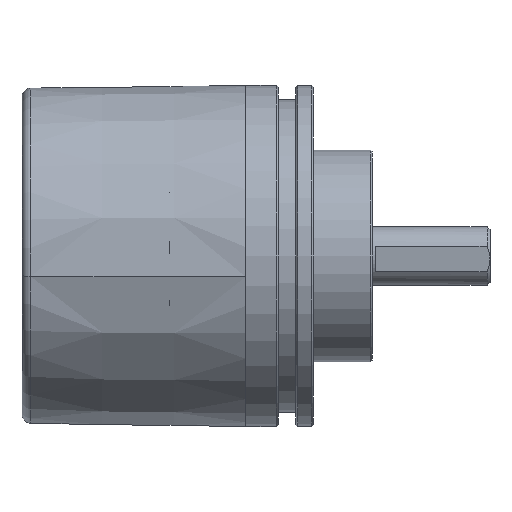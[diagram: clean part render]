
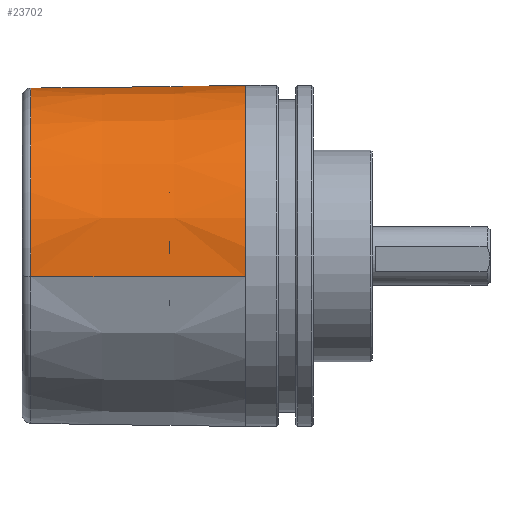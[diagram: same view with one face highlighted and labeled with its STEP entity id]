
A CAD part, front view. The second image highlights one B-rep face of the part: STEP entity #23702.
In plain terms, the highlighted conical face has half-angle 0.75 degrees and reference radius 29 mm.
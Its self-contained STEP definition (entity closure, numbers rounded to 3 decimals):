
#975 = DIRECTION ( 'NONE',  ( 0., 0.993, 0.122 ) ) ;
#1042 = CARTESIAN_POINT ( 'NONE',  ( -5.48, 22.134, 18.473 ) ) ;
#1164 = CARTESIAN_POINT ( 'NONE',  ( -2.834, 23.395, 16.909 ) ) ;
#1972 = CARTESIAN_POINT ( 'NONE',  ( -20.478, 21.872, 18.48 ) ) ;
#2489 = LINE ( 'NONE', #28698, #7434 ) ;
#3209 = VERTEX_POINT ( 'NONE', #22588 ) ;
#3236 = FACE_OUTER_BOUND ( 'NONE', #4989, .T. ) ;
#4099 = AXIS2_PLACEMENT_3D ( 'NONE', #7850, #28055, #10748 ) ;
#4105 = CARTESIAN_POINT ( 'NONE',  ( -2.549, 23.877, 16.231 ) ) ;
#4320 = CARTESIAN_POINT ( 'NONE',  ( -29.02, -28.309, -3.476 ) ) ;
#4989 = EDGE_LOOP ( 'NONE', ( #12631, #33299, #12632, #5902, #27137, #20556, #32549 ) ) ;
#5049 = CIRCLE ( 'NONE', #10962, 28.522 ) ;
#5902 = ORIENTED_EDGE ( 'NONE', *, *, #32487, .T. ) ;
#6885 = CARTESIAN_POINT ( 'NONE',  ( -5.038, 22.162, 18.448 ) ) ;
#6996 = CARTESIAN_POINT ( 'NONE',  ( -2.48, 24.354, 15.503 ) ) ;
#7267 = CONICAL_SURFACE ( 'NONE', #29235, 29., 0.013 ) ;
#7434 = VECTOR ( 'NONE', #8499, 1000. ) ;
#7647 = CARTESIAN_POINT ( 'NONE',  ( -5.48, 22.134, 18.473 ) ) ;
#7850 = CARTESIAN_POINT ( 'NONE',  ( 7.5, 0., 0. ) ) ;
#8499 = DIRECTION ( 'NONE',  ( 1., -0.013, -0.002 ) ) ;
#9212 = CARTESIAN_POINT ( 'NONE',  ( -23.325, 21.822, 18.482 ) ) ;
#9373 = EDGE_CURVE ( 'NONE', #33095, #3209, #10575, .T. ) ;
#9770 = CARTESIAN_POINT ( 'NONE',  ( -4.417, 22.307, 18.287 ) ) ;
#10575 = LINE ( 'NONE', #19185, #18250 ) ;
#10748 = DIRECTION ( 'NONE',  ( 0., 0.993, 0.122 ) ) ;
#10962 = AXIS2_PLACEMENT_3D ( 'NONE', #35494, #18252, #975 ) ;
#11907 = VERTEX_POINT ( 'NONE', #24388 ) ;
#12069 = CARTESIAN_POINT ( 'NONE',  ( -29.02, 21.722, 18.484 ) ) ;
#12631 = ORIENTED_EDGE ( 'NONE', *, *, #9373, .F. ) ;
#12632 = ORIENTED_EDGE ( 'NONE', *, *, #24748, .F. ) ;
#12639 = CARTESIAN_POINT ( 'NONE',  ( -3.864, 22.54, 18.01 ) ) ;
#13811 = DIRECTION ( 'NONE',  ( 1., 0., 0. ) ) ;
#14061 = CARTESIAN_POINT ( 'NONE',  ( -29.02, 21.722, 18.484 ) ) ;
#14208 = CIRCLE ( 'NONE', #33122, 28.869 ) ;
#14364 = CARTESIAN_POINT ( 'NONE',  ( 7.5, 0., 0. ) ) ;
#15505 = CARTESIAN_POINT ( 'NONE',  ( -3.399, 22.834, 17.646 ) ) ;
#16317 = CARTESIAN_POINT ( 'NONE',  ( -8.48, 22.082, 18.475 ) ) ;
#17412 = DIRECTION ( 'NONE',  ( 0., -0.993, -0.122 ) ) ;
#18250 = VECTOR ( 'NONE', #36433, 1000. ) ;
#18252 = DIRECTION ( 'NONE',  ( 1., 0., 0. ) ) ;
#18338 = CARTESIAN_POINT ( 'NONE',  ( -5.258, 22.138, 18.473 ) ) ;
#18457 = CARTESIAN_POINT ( 'NONE',  ( -3.029, 23.163, 17.22 ) ) ;
#18926 = EDGE_CURVE ( 'NONE', #32501, #3209, #37245, .T. ) ;
#19025 = CARTESIAN_POINT ( 'NONE',  ( -5.48, 22.134, 18.473 ) ) ;
#19185 = CARTESIAN_POINT ( 'NONE',  ( 7.5, 28.784, 3.534 ) ) ;
#19263 = CARTESIAN_POINT ( 'NONE',  ( -16.479, 21.942, 18.478 ) ) ;
#20556 = ORIENTED_EDGE ( 'NONE', *, *, #29440, .T. ) ;
#20850 = B_SPLINE_CURVE_WITH_KNOTS ( 'NONE', 3,
 ( #7647, #27727, #33621, #16317, #36496, #19263, #1972, #9212, #29391, #12069 ),
 .UNSPECIFIED., .F., .F.,
 ( 4, 3, 3, 4 ),
 ( 0., 0.003, 0.015, 0.024 ),
 .UNSPECIFIED. ) ;
#21384 = CARTESIAN_POINT ( 'NONE',  ( -2.75, 23.515, 16.743 ) ) ;
#22588 = CARTESIAN_POINT ( 'NONE',  ( 7.5, 28.784, 3.534 ) ) ;
#23702 = ADVANCED_FACE ( 'NONE', ( #3236 ), #7267, .T. ) ;
#24268 = CARTESIAN_POINT ( 'NONE',  ( -2.48, 24.117, 15.875 ) ) ;
#24388 = CARTESIAN_POINT ( 'NONE',  ( -2.48, 24.354, 15.503 ) ) ;
#24501 = VERTEX_POINT ( 'NONE', #14061 ) ;
#24748 = EDGE_CURVE ( 'NONE', #32689, #11907, #25458, .T. ) ;
#24961 = CARTESIAN_POINT ( 'NONE',  ( 7.5, -28.784, -3.534 ) ) ;
#25458 = B_SPLINE_CURVE_WITH_KNOTS ( 'NONE', 3,
 ( #1042, #18338, #6885, #27044, #9770, #29938, #12639, #32840, #15505, #35701, #18457, #1164, #21384, #4105, #24268, #6996 ),
 .UNSPECIFIED., .F., .F.,
 ( 4, 2, 2, 2, 2, 2, 2, 4 ),
 ( 0., 0.001, 0.001, 0.002, 0.003, 0.003, 0.004, 0.005 ),
 .UNSPECIFIED. ) ;
#27044 = CARTESIAN_POINT ( 'NONE',  ( -4.617, 22.247, 18.355 ) ) ;
#27137 = ORIENTED_EDGE ( 'NONE', *, *, #30682, .T. ) ;
#27564 = CARTESIAN_POINT ( 'NONE',  ( -2.48, 28.654, 3.518 ) ) ;
#27727 = CARTESIAN_POINT ( 'NONE',  ( -6.48, 22.116, 18.474 ) ) ;
#28055 = DIRECTION ( 'NONE',  ( -1., 0., 0. ) ) ;
#28698 = CARTESIAN_POINT ( 'NONE',  ( 7.5, -28.784, -3.534 ) ) ;
#29235 = AXIS2_PLACEMENT_3D ( 'NONE', #14364, #37438, #17412 ) ;
#29391 = CARTESIAN_POINT ( 'NONE',  ( -26.172, 21.772, 18.483 ) ) ;
#29440 = EDGE_CURVE ( 'NONE', #31805, #32501, #2489, .T. ) ;
#29938 = CARTESIAN_POINT ( 'NONE',  ( -4.037, 22.454, 18.113 ) ) ;
#30682 = EDGE_CURVE ( 'NONE', #24501, #31805, #5049, .T. ) ;
#31106 = CARTESIAN_POINT ( 'NONE',  ( -2.48, 0., 0. ) ) ;
#31805 = VERTEX_POINT ( 'NONE', #4320 ) ;
#32487 = EDGE_CURVE ( 'NONE', #32689, #24501, #20850, .T. ) ;
#32501 = VERTEX_POINT ( 'NONE', #24961 ) ;
#32549 = ORIENTED_EDGE ( 'NONE', *, *, #18926, .T. ) ;
#32689 = VERTEX_POINT ( 'NONE', #19025 ) ;
#32770 = EDGE_CURVE ( 'NONE', #33095, #11907, #14208, .T. ) ;
#32840 = CARTESIAN_POINT ( 'NONE',  ( -3.545, 22.729, 17.777 ) ) ;
#33095 = VERTEX_POINT ( 'NONE', #27564 ) ;
#33122 = AXIS2_PLACEMENT_3D ( 'NONE', #31106, #13811, #33999 ) ;
#33299 = ORIENTED_EDGE ( 'NONE', *, *, #32770, .T. ) ;
#33621 = CARTESIAN_POINT ( 'NONE',  ( -7.48, 22.099, 18.474 ) ) ;
#33999 = DIRECTION ( 'NONE',  ( 0., 0.993, 0.122 ) ) ;
#35494 = CARTESIAN_POINT ( 'NONE',  ( -29.02, 0., 0. ) ) ;
#35701 = CARTESIAN_POINT ( 'NONE',  ( -3.141, 23.051, 17.368 ) ) ;
#36433 = DIRECTION ( 'NONE',  ( 1., 0.013, 0.002 ) ) ;
#36496 = CARTESIAN_POINT ( 'NONE',  ( -12.479, 22.012, 18.477 ) ) ;
#37245 = CIRCLE ( 'NONE', #4099, 29. ) ;
#37438 = DIRECTION ( 'NONE',  ( 1., 0., 0. ) ) ;
